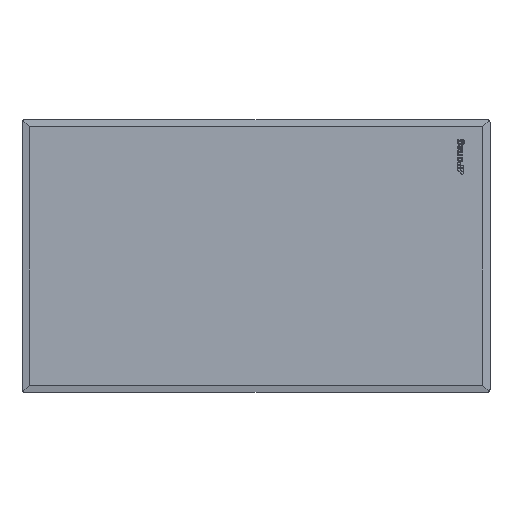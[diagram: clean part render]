
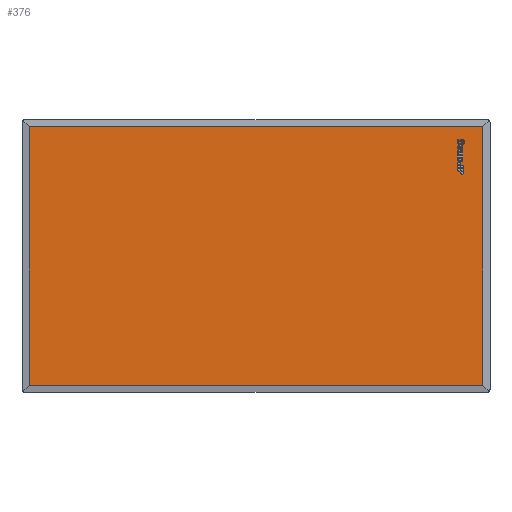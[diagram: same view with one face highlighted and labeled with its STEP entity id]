
A CAD part, top view. The second image highlights one B-rep face of the part: STEP entity #376.
In plain terms, the highlighted planar face has unit normal (0, 0, 1).
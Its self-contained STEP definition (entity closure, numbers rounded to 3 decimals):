
#233=PLANE('',#1917);
#376=ADVANCED_FACE('',(#492),#233,.T.);
#492=FACE_OUTER_BOUND('',#606,.T.);
#606=EDGE_LOOP('',(#1309,#1310,#1311,#1312));
#753=LINE('',#3137,#909);
#754=LINE('',#3140,#910);
#755=LINE('',#3142,#911);
#756=LINE('',#3144,#912);
#909=VECTOR('',#2339,1.);
#910=VECTOR('',#2340,1.);
#911=VECTOR('',#2341,1.);
#912=VECTOR('',#2342,1.);
#1309=ORIENTED_EDGE('',*,*,#1723,.T.);
#1310=ORIENTED_EDGE('',*,*,#1724,.T.);
#1311=ORIENTED_EDGE('',*,*,#1725,.T.);
#1312=ORIENTED_EDGE('',*,*,#1726,.T.);
#1511=VERTEX_POINT('',#3138);
#1512=VERTEX_POINT('',#3139);
#1513=VERTEX_POINT('',#3141);
#1514=VERTEX_POINT('',#3143);
#1723=EDGE_CURVE('',#1511,#1512,#753,.T.);
#1724=EDGE_CURVE('',#1512,#1513,#754,.T.);
#1725=EDGE_CURVE('',#1513,#1514,#755,.T.);
#1726=EDGE_CURVE('',#1514,#1511,#756,.T.);
#1917=AXIS2_PLACEMENT_3D('',#3145,#2343,#2344);
#2339=DIRECTION('',(0.,1.,0.));
#2340=DIRECTION('',(-1.,0.,0.));
#2341=DIRECTION('',(0.,-1.,0.));
#2342=DIRECTION('',(1.,0.,0.));
#2343=DIRECTION('',(0.,0.,1.));
#2344=DIRECTION('',(1.,0.,0.));
#3137=CARTESIAN_POINT('',(212.5,298.5,134.5));
#3138=CARTESIAN_POINT('',(212.5,6.5,134.5));
#3139=CARTESIAN_POINT('',(212.5,290.5,134.5));
#3140=CARTESIAN_POINT('',(-294.5,290.5,134.5));
#3141=CARTESIAN_POINT('',(-286.5,290.5,134.5));
#3142=CARTESIAN_POINT('',(-286.5,-1.5,134.5));
#3143=CARTESIAN_POINT('',(-286.5,6.5,134.5));
#3144=CARTESIAN_POINT('',(220.5,6.5,134.5));
#3145=CARTESIAN_POINT('',(0.,0.,134.5));
